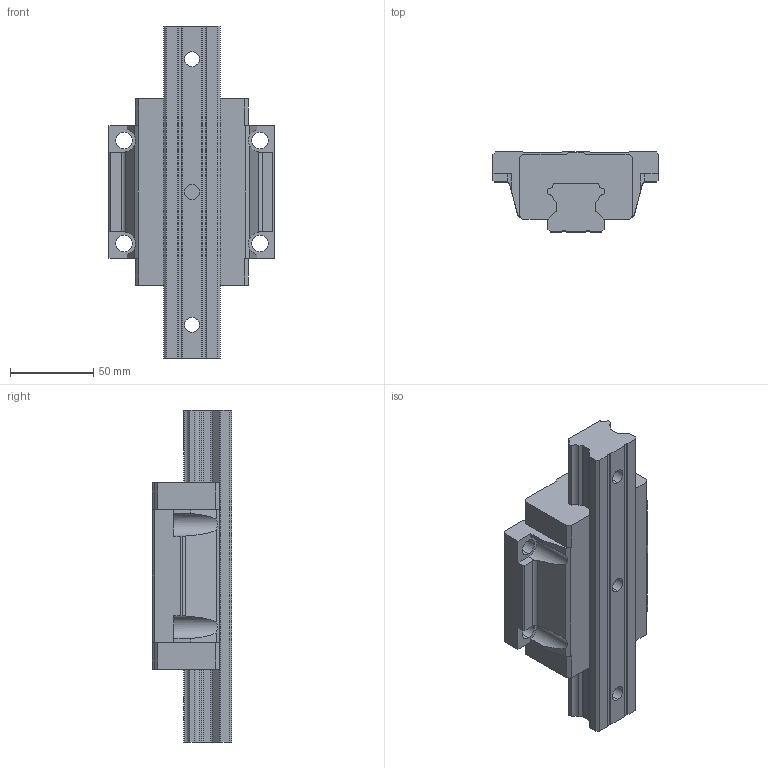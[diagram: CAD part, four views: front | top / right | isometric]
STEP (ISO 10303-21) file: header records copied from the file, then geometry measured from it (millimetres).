
FILE_DESCRIPTION (( 'STEP AP214' ), '1' );
FILE_NAME ('2.1005 Lineaarikelkka HGW35CC.STEP', '2025-09-19T06:41:04', ( '' ), ( '' ), 'SwSTEP 2.0', 'SolidWorks 2025', '' );
FILE_SCHEMA (( 'AUTOMOTIVE_DESIGN' ));
Length unit declared in the file: millimetre
Products named in the file (1): 2.1005 Lineaarikelkka HGW35CC
Bounding box: 100 x 48 x 200 mm (x, y, z)
Volume: 444719.3 mm3; surface area: 71267.6 mm2
Topology: 2 solids, 2 shells, 159 faces, 456 edges, 304 vertices
Faces by surface type: plane 115, cylinder 44
Entity records: 7041 total; most frequent: CARTESIAN_POINT 1022, ORIENTED_EDGE 912, DIRECTION 844, EDGE_CURVE 456, LINE 356, VECTOR 356, VERTEX_POINT 304, AXIS2_PLACEMENT_3D 244
